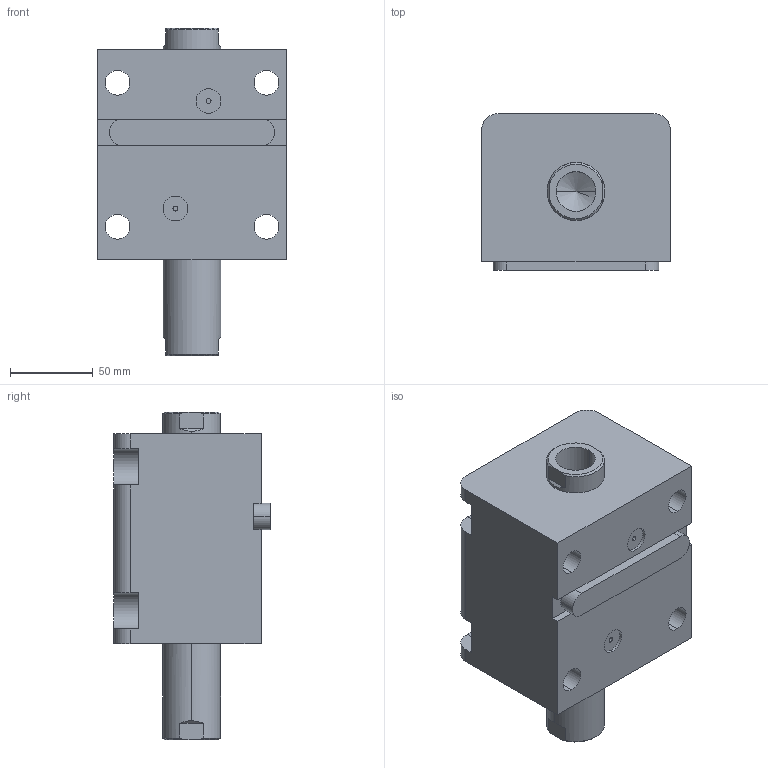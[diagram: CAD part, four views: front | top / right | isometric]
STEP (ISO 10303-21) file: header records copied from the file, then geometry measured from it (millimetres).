
FILE_DESCRIPTION (( 'STEP AP203' ), '1' );
FILE_NAME ('HTB-LWM63-45N.STEP', '2020-12-25T03:46:33', ( '微软用户' ), ( '微软中国' ), 'SwSTEP 2.0', 'SolidWorks 2012', '' );
FILE_SCHEMA (( 'CONFIG_CONTROL_DESIGN' ));
Length unit declared in the file: millimetre
Products named in the file (4): HTB-LWM63-45N; HTB-LWM63-45N活塞杆; HTB-LWM63-瑩; HTB-LWM63-45掛极
Assembly tree (3 placements, depth 2):
  HTB-LWM63-45N
    HTB-LWM63-45掛极
    HTB-LWM63-45N活塞杆
    HTB-LWM63-瑩
Bounding box: 114 x 94.5 x 198 mm (x, y, z)
Volume: 1146860.1 mm3; surface area: 149260.1 mm2
Topology: 3 solids, 3 shells, 105 faces, 261 edges, 168 vertices
Faces by surface type: cylinder 45, plane 44, torus 8, cone 8
Entity records: 3571 total; most frequent: CARTESIAN_POINT 592, DIRECTION 573, ORIENTED_EDGE 514, EDGE_CURVE 257, AXIS2_PLACEMENT_3D 221, VERTEX_POINT 168, VECTOR 131, LINE 131
